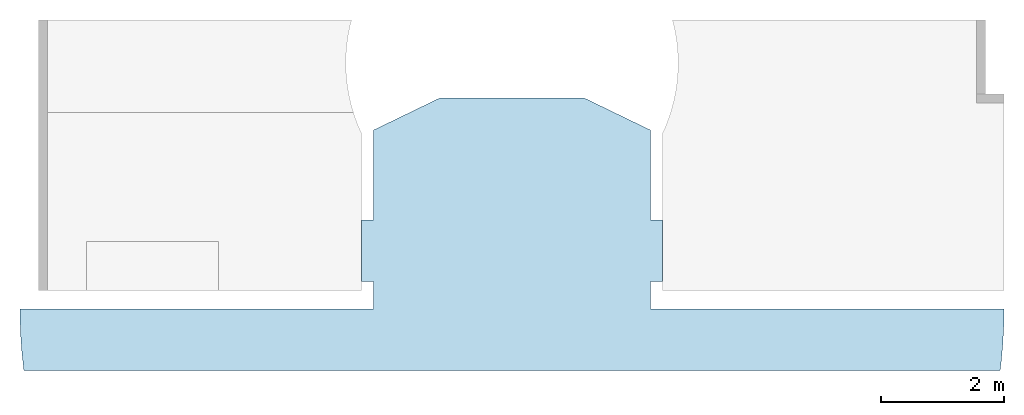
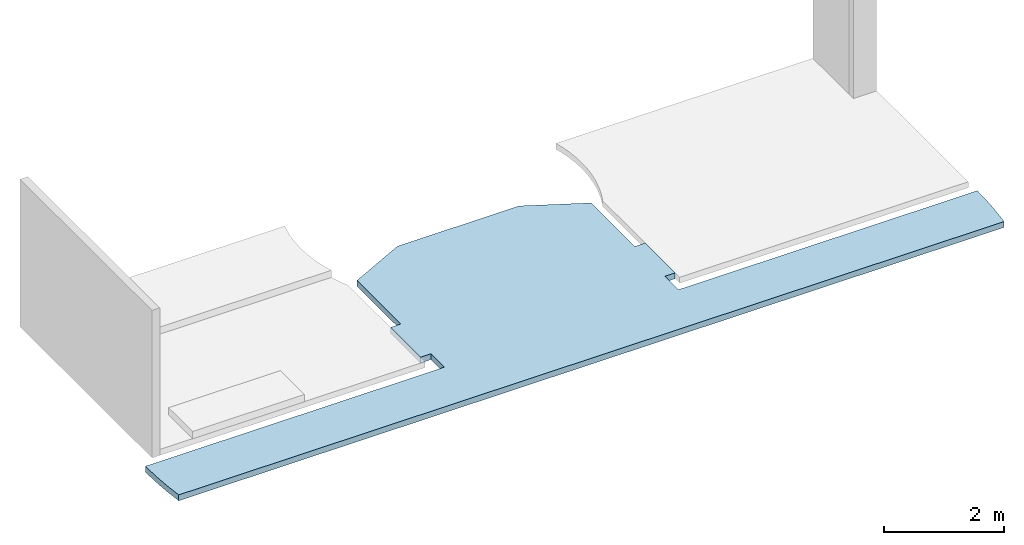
# One storey, part 2 of 3: 1 slab.
"""IFC4 building model written with IfcOpenShell, lengths in millimetres."""

from ifc_helpers import new_model, entity, si_unit, converted_unit, derived_unit, direction, frame, origin_with_axes, place, context, subcontext, project, spatial, polygons, material, constituent, constituent_set, type_object, element, save


model = new_model("IFC4")

# Units and contexts
model_context = context("Model", 3, precision=0.01, world=origin_with_axes(), true_north=direction((0.0, 1.0)))
body_context = subcontext(model_context, "Body", "Model", "MODEL_VIEW")
ifc_project = project(units=[si_unit("LENGTHUNIT", "METRE", prefix="MILLI"), si_unit("AREAUNIT", "SQUARE_METRE"), si_unit("VOLUMEUNIT", "CUBIC_METRE"), converted_unit("PLANEANGLEUNIT", "DEGREE", entity("IfcPlaneAngleMeasure", 0.0174532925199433), si_unit("PLANEANGLEUNIT", "RADIAN"), dimensions=[0, 0, 0, 0, 0, 0, 0]), converted_unit("TIMEUNIT", "Year", entity("IfcTimeMeasure", 31557600.0), si_unit("TIMEUNIT", "SECOND"), dimensions=[0, 0, 1, 0, 0, 0, 0]), si_unit("MASSUNIT", "GRAM", prefix="KILO"), si_unit("THERMODYNAMICTEMPERATUREUNIT", "DEGREE_CELSIUS"), si_unit("LUMINOUSINTENSITYUNIT", "LUMEN"), si_unit("ENERGYUNIT", "JOULE", prefix="MEGA"), derived_unit("THERMALCONDUCTANCEUNIT", [(si_unit("POWERUNIT", "WATT"), 1), (si_unit("LENGTHUNIT", "METRE"), -1), (si_unit("THERMODYNAMICTEMPERATUREUNIT", "KELVIN"), -1)]), derived_unit("SPECIFICHEATCAPACITYUNIT", [(si_unit("ENERGYUNIT", "JOULE"), 1), (si_unit("MASSUNIT", "GRAM", prefix="KILO"), -1), (si_unit("THERMODYNAMICTEMPERATUREUNIT", "KELVIN"), -1)]), derived_unit("MASSDENSITYUNIT", [(si_unit("MASSUNIT", "GRAM", prefix="KILO"), 1), (si_unit("VOLUMEUNIT", "CUBIC_METRE"), -1)])], contexts=[model_context])

# Site, building, storey
site_placement = place(None, origin_with_axes())
site = spatial("IfcSite", under=ifc_project, at=site_placement, Name="Exteriér", CompositionType="ELEMENT")
building_placement = place(site_placement, origin_with_axes())
building = spatial("IfcBuilding", under=site, at=building_placement, Name="Univerzitní lezecké centrum", CompositionType="ELEMENT")
storey_placement = place(building_placement, frame((0.0, 0.0, 6400.0), z_axis=(0.0, 0.0, 1.0), x_axis=(1.0, 0.0, 0.0)))
storey = spatial("IfcBuildingStorey", under=building, at=storey_placement, Name="3.NP", CompositionType="ELEMENT", Elevation=6400.0)

# Slab
ifc_material_1 = material(Name="Keramická dlažba 60x60")
ifc_constituent_1 = constituent(ifc_material_1, Name="Keramická dlažba 60x60")
ifc_material_2 = material(Name="Lepicí tmel na dlažbu a obklady")
ifc_constituent_2 = constituent(ifc_material_2, Name="Lepicí tmel na dlažbu a obklady")
ifc_material_3 = material(Name="Samonivelační stěrková hmota")
ifc_constituent_3 = constituent(ifc_material_3, Name="Samonivelační stěrková hmota")
ifc_material_4 = material(Name="Betonová mazanina")
ifc_constituent_4 = constituent(ifc_material_4, Name="Betonová mazanina")
ifc_material_5 = material(Name="PE fólie")
ifc_constituent_5 = constituent(ifc_material_5, Name="PE fólie")
ifc_material_6 = material(Name="Akustická izolace - EPS")
ifc_constituent_6 = constituent(ifc_material_6, Name="Akustická izolace - EPS")
ifc_constituent_set = constituent_set(constituents=[ifc_constituent_1, ifc_constituent_2, ifc_constituent_3, ifc_constituent_4, ifc_constituent_5, ifc_constituent_6], Name="!P03 Podlaha v patře - keramická dlažba 60x60")
slab_type = type_object("IfcSlabType", Name="!P03 Podlaha v patře - keramická dlažba 60x60 120", PredefinedType="FLOOR")
slab_placement = place(storey_placement, frame((-5550.148351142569, -299.9999999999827, 0.0), z_axis=(0.0, 0.0, 1.0), x_axis=(1.0, 0.0, 0.0)))
element("IfcSlab", 1, at=slab_placement, inside=storey, type_object=slab_type, material=ifc_constituent_set, Name="P03", PredefinedType="FLOOR", context=body_context, shape_type="Tessellation", body=[
    polygons([(9136.615207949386, 3433.426201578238, -9.999999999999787), (8303.896341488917, 3433.449993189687, -9.999999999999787), (8304.011930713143, 3433.449993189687, 0.0), (9136.615207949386, 3433.426201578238, 0.0), (9136.62706746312, 3433.449993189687, -9.999999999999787), (9170.051746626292, 3433.449993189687, -9.999999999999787), (10250.09951274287, 2910.480756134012, -9.999999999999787), (10250.09951274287, 1449.997452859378, -9.999999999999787), (10450.09951274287, 1449.997452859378, -9.999999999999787), (10450.09951274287, 449.9974528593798, -9.999999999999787), (10250.09951274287, 449.9974528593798, -9.999999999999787), (10250.09951274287, 300.0000000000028, -9.999999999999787), (10249.92954566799, 300.0000000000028, -9.999999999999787), (10249.92954566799, 0.0, -9.999999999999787), (10250.09951274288, 0.0, -9.999999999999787), (15999.99999999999, 0.0, -9.999999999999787), (15995.92125710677, -292.2489788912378, -9.999999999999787), (15980.51172042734, -575.8462430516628, -9.999999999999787), (15955.04680721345, -858.7179458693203, -9.999999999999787), (15937.30270512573, -999.6128086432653, -9.999999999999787), (10250.09951274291, -999.6127902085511, -9.999999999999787), (10249.92954566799, -999.6128088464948, -9.999999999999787), (62.69729255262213, -999.6127902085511, -9.999999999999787), (30.22709417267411, -709.1445868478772, -9.999999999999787), (10.07993160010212, -425.8444740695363, -9.999999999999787), (0.0, -142.0078008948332, -9.999999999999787), (0.0, 0.0, -9.999999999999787), (5749.932885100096, 0.0, -9.999999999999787), (5749.927875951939, 449.9999999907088, -9.999999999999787), (5549.831917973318, 449.9999999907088, -9.999999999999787), (5549.916745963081, 1450.014738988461, -9.999999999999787), (5749.916744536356, 1449.997773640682, -9.999999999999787), (5749.900487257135, 2910.480756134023, -9.999999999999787), (6829.948253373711, 3433.449993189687, -9.999999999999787), (6829.948253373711, 3433.449993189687, 0.0), (5749.900487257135, 2910.480756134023, 0.0), (5749.916744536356, 1449.997773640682, 0.0), (5549.916745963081, 1450.014738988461, 0.0), (5549.831917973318, 449.9999999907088, 0.0), (5749.927875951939, 449.9999999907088, 0.0), (5749.932885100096, 0.0, 0.0), (0.0, 0.0, 0.0), (0.0, -142.0078008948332, 0.0), (10.07993160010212, -425.8444740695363, 0.0), (30.22709417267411, -709.1445868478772, 0.0), (62.69729255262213, -999.6127902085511, 0.0), (10249.92954566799, -999.6128088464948, 0.0), (10250.09951274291, -999.6127902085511, 0.0), (15937.30270512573, -999.6128086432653, 0.0), (15955.04680721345, -858.7179458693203, 0.0), (15980.51172042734, -575.8462430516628, 0.0), (15995.92125710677, -292.2489788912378, 0.0), (15999.99999999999, 0.0, 0.0), (10250.09951274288, 0.0, 0.0), (10249.92954566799, 0.0, 0.0), (10249.92954566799, 300.0000000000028, 0.0), (10250.09951274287, 300.0000000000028, 0.0), (10250.09951274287, 449.9974528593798, 0.0), (10450.09951274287, 449.9974528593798, 0.0), (10450.09951274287, 1449.997452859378, 0.0), (10250.09951274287, 1449.997452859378, 0.0), (10250.09951274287, 2910.480756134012, 0.0), (9170.051746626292, 3433.449993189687, 0.0), (9136.62706746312, 3433.449993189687, 0.0)], [[[1, 2, 3, 4]], [[2, 1, 5, 6, 7, 8, 9, 10, 11, 12, 13, 14, 15, 16, 17, 18, 19, 20, 21, 22, 23, 24, 25, 26, 27, 28, 29, 30, 31, 32, 33, 34]], [[3, 2, 34, 35]], [[3, 35, 36, 37, 38, 39, 40, 41, 42, 43, 44, 45, 46, 47, 48, 49, 50, 51, 52, 53, 54, 55, 56, 57, 58, 59, 60, 61, 62, 63, 64, 4]], [[1, 4, 64, 5]], [[6, 5, 64, 63]], [[7, 6, 63, 62]], [[8, 7, 62, 61]], [[9, 8, 61, 60]], [[10, 9, 60, 59]], [[11, 10, 59, 58]], [[11, 58, 57, 12]], [[56, 13, 12, 57]], [[14, 13, 56, 55]], [[15, 14, 55, 54]], [[53, 16, 15, 54]], [[17, 16, 53, 52]], [[18, 17, 52, 51]], [[19, 18, 51, 50]], [[20, 19, 50, 49]], [[21, 20, 49, 48]], [[22, 21, 48, 47]], [[23, 22, 47, 46]], [[24, 23, 46, 45]], [[25, 24, 45, 44]], [[26, 25, 44, 43]], [[27, 26, 43, 42]], [[28, 27, 42, 41]], [[29, 28, 41, 40]], [[30, 29, 40, 39]], [[31, 30, 39, 38]], [[32, 31, 38, 37]], [[33, 32, 37, 36]], [[34, 33, 36, 35]]], closed=True),
    polygons([(9136.615207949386, 3433.426201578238, -12.9999999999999), (8303.861664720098, 3433.449993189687, -12.9999999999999), (8303.896341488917, 3433.449993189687, -9.999999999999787), (9136.615207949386, 3433.426201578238, -9.999999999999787), (9136.62706746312, 3433.449993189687, -12.9999999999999), (9170.051746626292, 3433.449993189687, -12.9999999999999), (10250.09951274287, 2910.480756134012, -12.9999999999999), (10250.09951274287, 1449.997452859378, -12.9999999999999), (10450.09951274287, 1449.997452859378, -12.9999999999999), (10450.09951274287, 449.9974528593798, -12.9999999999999), (10250.09951274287, 449.9974528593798, -12.9999999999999), (10250.09951274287, 300.0000000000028, -12.9999999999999), (10249.92954566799, 300.0000000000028, -12.9999999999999), (10249.92954566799, 0.0, -12.9999999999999), (10250.09951274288, 0.0, -12.9999999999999), (15999.99999999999, 0.0, -12.9999999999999), (15995.92125710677, -292.2489788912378, -12.9999999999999), (15980.51172042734, -575.8462430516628, -12.9999999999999), (15955.04680721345, -858.7179458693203, -12.9999999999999), (15937.30270512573, -999.6128086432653, -12.9999999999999), (10250.09951274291, -999.6127902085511, -12.9999999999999), (10249.92954566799, -999.6128088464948, -12.9999999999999), (62.69729255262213, -999.6127902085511, -12.9999999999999), (30.22709417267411, -709.1445868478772, -12.9999999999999), (10.07993160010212, -425.8444740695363, -12.9999999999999), (0.0, -142.0078008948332, -12.9999999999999), (0.0, 0.0, -12.9999999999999), (5749.932885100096, 0.0, -12.9999999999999), (5749.927875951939, 449.9999999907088, -12.9999999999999), (5549.831917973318, 449.9999999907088, -12.9999999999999), (5549.916745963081, 1450.014738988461, -12.9999999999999), (5749.916744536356, 1449.997773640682, -12.9999999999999), (5749.900487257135, 2910.480756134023, -12.9999999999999), (6829.948253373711, 3433.449993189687, -12.9999999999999), (6829.948253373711, 3433.449993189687, -9.999999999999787), (5749.900487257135, 2910.480756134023, -9.999999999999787), (5749.916744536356, 1449.997773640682, -9.999999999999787), (5549.916745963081, 1450.014738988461, -9.999999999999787), (5549.831917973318, 449.9999999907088, -9.999999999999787), (5749.927875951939, 449.9999999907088, -9.999999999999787), (5749.932885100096, 0.0, -9.999999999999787), (0.0, 0.0, -9.999999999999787), (0.0, -142.0078008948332, -9.999999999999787), (10.07993160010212, -425.8444740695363, -9.999999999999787), (30.22709417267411, -709.1445868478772, -9.999999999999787), (62.69729255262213, -999.6127902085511, -9.999999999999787), (10249.92954566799, -999.6128088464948, -9.999999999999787), (10250.09951274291, -999.6127902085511, -9.999999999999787), (15937.30270512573, -999.6128086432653, -9.999999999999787), (15955.04680721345, -858.7179458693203, -9.999999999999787), (15980.51172042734, -575.8462430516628, -9.999999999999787), (15995.92125710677, -292.2489788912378, -9.999999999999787), (15999.99999999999, 0.0, -9.999999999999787), (10250.09951274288, 0.0, -9.999999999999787), (10249.92954566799, 0.0, -9.999999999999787), (10249.92954566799, 300.0000000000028, -9.999999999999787), (10250.09951274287, 300.0000000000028, -9.999999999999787), (10250.09951274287, 449.9974528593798, -9.999999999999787), (10450.09951274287, 449.9974528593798, -9.999999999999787), (10450.09951274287, 1449.997452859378, -9.999999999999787), (10250.09951274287, 1449.997452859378, -9.999999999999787), (10250.09951274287, 2910.480756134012, -9.999999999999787), (9170.051746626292, 3433.449993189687, -9.999999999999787), (9136.62706746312, 3433.449993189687, -9.999999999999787)], [[[1, 2, 3, 4]], [[2, 1, 5, 6, 7, 8, 9, 10, 11, 12, 13, 14, 15, 16, 17, 18, 19, 20, 21, 22, 23, 24, 25, 26, 27, 28, 29, 30, 31, 32, 33, 34]], [[3, 2, 34, 35]], [[3, 35, 36, 37, 38, 39, 40, 41, 42, 43, 44, 45, 46, 47, 48, 49, 50, 51, 52, 53, 54, 55, 56, 57, 58, 59, 60, 61, 62, 63, 64, 4]], [[1, 4, 64, 5]], [[6, 5, 64, 63]], [[7, 6, 63, 62]], [[8, 7, 62, 61]], [[9, 8, 61, 60]], [[10, 9, 60, 59]], [[11, 10, 59, 58]], [[11, 58, 57, 12]], [[56, 13, 12, 57]], [[14, 13, 56, 55]], [[15, 14, 55, 54]], [[53, 16, 15, 54]], [[17, 16, 53, 52]], [[18, 17, 52, 51]], [[19, 18, 51, 50]], [[20, 19, 50, 49]], [[21, 20, 49, 48]], [[22, 21, 48, 47]], [[23, 22, 47, 46]], [[24, 23, 46, 45]], [[25, 24, 45, 44]], [[26, 25, 44, 43]], [[27, 26, 43, 42]], [[28, 27, 42, 41]], [[29, 28, 41, 40]], [[30, 29, 40, 39]], [[31, 30, 39, 38]], [[32, 31, 38, 37]], [[33, 32, 37, 36]], [[34, 33, 36, 35]]], closed=True),
    polygons([(9136.615207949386, 3433.426201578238, -16.00000000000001), (8303.826987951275, 3433.449993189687, -16.00000000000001), (8303.861664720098, 3433.449993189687, -12.9999999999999), (9136.615207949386, 3433.426201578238, -12.9999999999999), (9136.62706746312, 3433.449993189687, -16.00000000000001), (9170.051746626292, 3433.449993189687, -16.00000000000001), (10250.09951274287, 2910.480756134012, -16.00000000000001), (10250.09951274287, 1449.997452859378, -16.00000000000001), (10450.09951274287, 1449.997452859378, -16.00000000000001), (10450.09951274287, 449.9974528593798, -16.00000000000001), (10250.09951274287, 449.9974528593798, -16.00000000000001), (10250.09951274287, 300.0000000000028, -16.00000000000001), (10249.92954566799, 300.0000000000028, -16.00000000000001), (10249.92954566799, 0.0, -16.00000000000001), (10250.09951274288, 0.0, -16.00000000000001), (15999.99999999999, 0.0, -16.00000000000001), (15995.92125710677, -292.2489788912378, -16.00000000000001), (15980.51172042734, -575.8462430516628, -16.00000000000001), (15955.04680721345, -858.7179458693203, -16.00000000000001), (15937.30270512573, -999.6128086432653, -16.00000000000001), (10250.09951274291, -999.6127902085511, -16.00000000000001), (10249.92954566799, -999.6128088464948, -16.00000000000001), (62.69729255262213, -999.6127902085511, -16.00000000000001), (30.22709417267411, -709.1445868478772, -16.00000000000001), (10.07993160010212, -425.8444740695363, -16.00000000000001), (0.0, -142.0078008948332, -16.00000000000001), (0.0, 0.0, -16.00000000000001), (5749.932885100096, 0.0, -16.00000000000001), (5749.927875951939, 449.9999999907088, -16.00000000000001), (5549.831917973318, 449.9999999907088, -16.00000000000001), (5549.916745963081, 1450.014738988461, -16.00000000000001), (5749.916744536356, 1449.997773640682, -16.00000000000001), (5749.900487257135, 2910.480756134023, -16.00000000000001), (6829.948253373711, 3433.449993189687, -16.00000000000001), (6829.948253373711, 3433.449993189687, -12.9999999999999), (5749.900487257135, 2910.480756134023, -12.9999999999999), (5749.916744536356, 1449.997773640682, -12.9999999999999), (5549.916745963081, 1450.014738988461, -12.9999999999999), (5549.831917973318, 449.9999999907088, -12.9999999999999), (5749.927875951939, 449.9999999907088, -12.9999999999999), (5749.932885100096, 0.0, -12.9999999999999), (0.0, 0.0, -12.9999999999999), (0.0, -142.0078008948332, -12.9999999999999), (10.07993160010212, -425.8444740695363, -12.9999999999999), (30.22709417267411, -709.1445868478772, -12.9999999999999), (62.69729255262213, -999.6127902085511, -12.9999999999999), (10249.92954566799, -999.6128088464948, -12.9999999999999), (10250.09951274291, -999.6127902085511, -12.9999999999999), (15937.30270512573, -999.6128086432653, -12.9999999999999), (15955.04680721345, -858.7179458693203, -12.9999999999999), (15980.51172042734, -575.8462430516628, -12.9999999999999), (15995.92125710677, -292.2489788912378, -12.9999999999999), (15999.99999999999, 0.0, -12.9999999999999), (10250.09951274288, 0.0, -12.9999999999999), (10249.92954566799, 0.0, -12.9999999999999), (10249.92954566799, 300.0000000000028, -12.9999999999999), (10250.09951274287, 300.0000000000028, -12.9999999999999), (10250.09951274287, 449.9974528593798, -12.9999999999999), (10450.09951274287, 449.9974528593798, -12.9999999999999), (10450.09951274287, 1449.997452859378, -12.9999999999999), (10250.09951274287, 1449.997452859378, -12.9999999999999), (10250.09951274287, 2910.480756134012, -12.9999999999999), (9170.051746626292, 3433.449993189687, -12.9999999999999), (9136.62706746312, 3433.449993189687, -12.9999999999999)], [[[1, 2, 3, 4]], [[2, 1, 5, 6, 7, 8, 9, 10, 11, 12, 13, 14, 15, 16, 17, 18, 19, 20, 21, 22, 23, 24, 25, 26, 27, 28, 29, 30, 31, 32, 33, 34]], [[3, 2, 34, 35]], [[3, 35, 36, 37, 38, 39, 40, 41, 42, 43, 44, 45, 46, 47, 48, 49, 50, 51, 52, 53, 54, 55, 56, 57, 58, 59, 60, 61, 62, 63, 64, 4]], [[1, 4, 64, 5]], [[6, 5, 64, 63]], [[7, 6, 63, 62]], [[8, 7, 62, 61]], [[9, 8, 61, 60]], [[10, 9, 60, 59]], [[11, 10, 59, 58]], [[11, 58, 57, 12]], [[56, 13, 12, 57]], [[14, 13, 56, 55]], [[15, 14, 55, 54]], [[53, 16, 15, 54]], [[17, 16, 53, 52]], [[18, 17, 52, 51]], [[19, 18, 51, 50]], [[20, 19, 50, 49]], [[21, 20, 49, 48]], [[22, 21, 48, 47]], [[23, 22, 47, 46]], [[24, 23, 46, 45]], [[25, 24, 45, 44]], [[26, 25, 44, 43]], [[27, 26, 43, 42]], [[28, 27, 42, 41]], [[29, 28, 41, 40]], [[30, 29, 40, 39]], [[31, 30, 39, 38]], [[32, 31, 38, 37]], [[33, 32, 37, 36]], [[34, 33, 36, 35]]], closed=True),
    polygons([(9136.615207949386, 3433.426201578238, -78.99999999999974), (8303.09877583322, 3433.449993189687, -78.99999999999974), (8303.826987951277, 3433.449993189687, -16.00000000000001), (9136.615207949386, 3433.426201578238, -16.00000000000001), (9136.62706746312, 3433.449993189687, -78.99999999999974), (9170.051746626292, 3433.449993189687, -78.99999999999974), (10250.09951274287, 2910.480756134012, -78.99999999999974), (10250.09951274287, 1449.997452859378, -78.99999999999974), (10450.09951274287, 1449.997452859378, -78.99999999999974), (10450.09951274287, 449.9974528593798, -78.99999999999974), (10250.09951274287, 449.9974528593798, -78.99999999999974), (10250.09951274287, 300.0000000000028, -78.99999999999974), (10249.92954566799, 300.0000000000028, -78.99999999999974), (10249.92954566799, 0.0, -78.99999999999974), (10250.09951274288, 0.0, -78.99999999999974), (15999.99999999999, 0.0, -78.99999999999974), (15995.92125710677, -292.2489788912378, -78.99999999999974), (15980.51172042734, -575.8462430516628, -78.99999999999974), (15955.04680721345, -858.7179458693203, -78.99999999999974), (15937.30270512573, -999.6128086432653, -78.99999999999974), (10250.09951274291, -999.6127902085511, -78.99999999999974), (10249.92954566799, -999.6128088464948, -78.99999999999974), (62.69729255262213, -999.6127902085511, -78.99999999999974), (30.22709417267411, -709.1445868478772, -78.99999999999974), (10.07993160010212, -425.8444740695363, -78.99999999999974), (0.0, -142.0078008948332, -78.99999999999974), (0.0, 0.0, -78.99999999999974), (5749.932885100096, 0.0, -78.99999999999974), (5749.927875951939, 449.9999999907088, -78.99999999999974), (5549.831917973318, 449.9999999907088, -78.99999999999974), (5549.916745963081, 1450.014738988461, -78.99999999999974), (5749.916744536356, 1449.997773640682, -78.99999999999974), (5749.900487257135, 2910.480756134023, -78.99999999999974), (6829.948253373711, 3433.449993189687, -78.99999999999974), (6829.948253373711, 3433.449993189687, -16.00000000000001), (5749.900487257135, 2910.480756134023, -16.00000000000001), (5749.916744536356, 1449.997773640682, -16.00000000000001), (5549.916745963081, 1450.014738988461, -16.00000000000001), (5549.831917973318, 449.9999999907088, -16.00000000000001), (5749.927875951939, 449.9999999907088, -16.00000000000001), (5749.932885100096, 0.0, -16.00000000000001), (0.0, 0.0, -16.00000000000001), (0.0, -142.0078008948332, -16.00000000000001), (10.07993160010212, -425.8444740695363, -16.00000000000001), (30.22709417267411, -709.1445868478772, -16.00000000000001), (62.69729255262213, -999.6127902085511, -16.00000000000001), (10249.92954566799, -999.6128088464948, -16.00000000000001), (10250.09951274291, -999.6127902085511, -16.00000000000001), (15937.30270512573, -999.6128086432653, -16.00000000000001), (15955.04680721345, -858.7179458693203, -16.00000000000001), (15980.51172042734, -575.8462430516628, -16.00000000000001), (15995.92125710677, -292.2489788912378, -16.00000000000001), (15999.99999999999, 0.0, -16.00000000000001), (10250.09951274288, 0.0, -16.00000000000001), (10249.92954566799, 0.0, -16.00000000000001), (10249.92954566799, 300.0000000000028, -16.00000000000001), (10250.09951274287, 300.0000000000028, -16.00000000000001), (10250.09951274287, 449.9974528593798, -16.00000000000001), (10450.09951274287, 449.9974528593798, -16.00000000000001), (10450.09951274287, 1449.997452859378, -16.00000000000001), (10250.09951274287, 1449.997452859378, -16.00000000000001), (10250.09951274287, 2910.480756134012, -16.00000000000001), (9170.051746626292, 3433.449993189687, -16.00000000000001), (9136.62706746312, 3433.449993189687, -16.00000000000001)], [[[1, 2, 3, 4]], [[2, 1, 5, 6, 7, 8, 9, 10, 11, 12, 13, 14, 15, 16, 17, 18, 19, 20, 21, 22, 23, 24, 25, 26, 27, 28, 29, 30, 31, 32, 33, 34]], [[3, 2, 34, 35]], [[3, 35, 36, 37, 38, 39, 40, 41, 42, 43, 44, 45, 46, 47, 48, 49, 50, 51, 52, 53, 54, 55, 56, 57, 58, 59, 60, 61, 62, 63, 64, 4]], [[1, 4, 64, 5]], [[6, 5, 64, 63]], [[7, 6, 63, 62]], [[8, 7, 62, 61]], [[9, 8, 61, 60]], [[10, 9, 60, 59]], [[11, 10, 59, 58]], [[11, 58, 57, 12]], [[56, 13, 12, 57]], [[14, 13, 56, 55]], [[15, 14, 55, 54]], [[53, 16, 15, 54]], [[17, 16, 53, 52]], [[18, 17, 52, 51]], [[19, 18, 51, 50]], [[20, 19, 50, 49]], [[21, 20, 49, 48]], [[22, 21, 48, 47]], [[23, 22, 47, 46]], [[24, 23, 46, 45]], [[25, 24, 45, 44]], [[26, 25, 44, 43]], [[27, 26, 43, 42]], [[28, 27, 42, 41]], [[29, 28, 41, 40]], [[30, 29, 40, 39]], [[31, 30, 39, 38]], [[32, 31, 38, 37]], [[33, 32, 37, 36]], [[34, 33, 36, 35]]], closed=True),
    polygons([(9136.615207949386, 3433.426201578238, -79.49999999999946), (8303.092996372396, 3433.449993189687, -79.49999999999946), (8303.09877583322, 3433.449993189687, -78.99999999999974), (9136.615207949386, 3433.426201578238, -78.99999999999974), (9136.62706746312, 3433.449993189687, -79.49999999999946), (9170.051746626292, 3433.449993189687, -79.49999999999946), (10250.09951274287, 2910.480756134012, -79.49999999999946), (10250.09951274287, 1449.997452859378, -79.49999999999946), (10450.09951274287, 1449.997452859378, -79.49999999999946), (10450.09951274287, 449.9974528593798, -79.49999999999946), (10250.09951274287, 449.9974528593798, -79.49999999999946), (10250.09951274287, 300.0000000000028, -79.49999999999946), (10249.92954566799, 300.0000000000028, -79.49999999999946), (10249.92954566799, 0.0, -79.49999999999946), (10250.09951274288, 0.0, -79.49999999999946), (15999.99999999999, 0.0, -79.49999999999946), (15995.92125710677, -292.2489788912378, -79.49999999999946), (15980.51172042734, -575.8462430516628, -79.49999999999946), (15955.04680721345, -858.7179458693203, -79.49999999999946), (15937.30270512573, -999.6128086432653, -79.49999999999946), (10250.09951274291, -999.6127902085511, -79.49999999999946), (10249.92954566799, -999.6128088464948, -79.49999999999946), (62.69729255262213, -999.6127902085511, -79.49999999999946), (30.22709417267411, -709.1445868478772, -79.49999999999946), (10.07993160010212, -425.8444740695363, -79.49999999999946), (0.0, -142.0078008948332, -79.49999999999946), (0.0, 0.0, -79.49999999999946), (5749.932885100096, 0.0, -79.49999999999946), (5749.927875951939, 449.9999999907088, -79.49999999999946), (5549.831917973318, 449.9999999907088, -79.49999999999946), (5549.916745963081, 1450.014738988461, -79.49999999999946), (5749.916744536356, 1449.997773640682, -79.49999999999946), (5749.900487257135, 2910.480756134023, -79.49999999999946), (6829.948253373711, 3433.449993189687, -79.49999999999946), (6829.948253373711, 3433.449993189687, -78.99999999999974), (5749.900487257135, 2910.480756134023, -78.99999999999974), (5749.916744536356, 1449.997773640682, -78.99999999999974), (5549.916745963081, 1450.014738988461, -78.99999999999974), (5549.831917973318, 449.9999999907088, -78.99999999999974), (5749.927875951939, 449.9999999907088, -78.99999999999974), (5749.932885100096, 0.0, -78.99999999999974), (0.0, 0.0, -78.99999999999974), (0.0, -142.0078008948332, -78.99999999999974), (10.07993160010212, -425.8444740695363, -78.99999999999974), (30.22709417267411, -709.1445868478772, -78.99999999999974), (62.69729255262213, -999.6127902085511, -78.99999999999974), (10249.92954566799, -999.6128088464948, -78.99999999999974), (10250.09951274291, -999.6127902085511, -78.99999999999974), (15937.30270512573, -999.6128086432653, -78.99999999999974), (15955.04680721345, -858.7179458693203, -78.99999999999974), (15980.51172042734, -575.8462430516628, -78.99999999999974), (15995.92125710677, -292.2489788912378, -78.99999999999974), (15999.99999999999, 0.0, -78.99999999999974), (10250.09951274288, 0.0, -78.99999999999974), (10249.92954566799, 0.0, -78.99999999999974), (10249.92954566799, 300.0000000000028, -78.99999999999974), (10250.09951274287, 300.0000000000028, -78.99999999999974), (10250.09951274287, 449.9974528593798, -78.99999999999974), (10450.09951274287, 449.9974528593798, -78.99999999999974), (10450.09951274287, 1449.997452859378, -78.99999999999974), (10250.09951274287, 1449.997452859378, -78.99999999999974), (10250.09951274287, 2910.480756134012, -78.99999999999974), (9170.051746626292, 3433.449993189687, -78.99999999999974), (9136.62706746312, 3433.449993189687, -78.99999999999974)], [[[1, 2, 3, 4]], [[2, 1, 5, 6, 7, 8, 9, 10, 11, 12, 13, 14, 15, 16, 17, 18, 19, 20, 21, 22, 23, 24, 25, 26, 27, 28, 29, 30, 31, 32, 33, 34]], [[3, 2, 34, 35]], [[3, 35, 36, 37, 38, 39, 40, 41, 42, 43, 44, 45, 46, 47, 48, 49, 50, 51, 52, 53, 54, 55, 56, 57, 58, 59, 60, 61, 62, 63, 64, 4]], [[1, 4, 64, 5]], [[6, 5, 64, 63]], [[7, 6, 63, 62]], [[8, 7, 62, 61]], [[9, 8, 61, 60]], [[10, 9, 60, 59]], [[11, 10, 59, 58]], [[11, 58, 57, 12]], [[56, 13, 12, 57]], [[14, 13, 56, 55]], [[15, 14, 55, 54]], [[53, 16, 15, 54]], [[17, 16, 53, 52]], [[18, 17, 52, 51]], [[19, 18, 51, 50]], [[20, 19, 50, 49]], [[21, 20, 49, 48]], [[22, 21, 48, 47]], [[23, 22, 47, 46]], [[24, 23, 46, 45]], [[25, 24, 45, 44]], [[26, 25, 44, 43]], [[27, 26, 43, 42]], [[28, 27, 42, 41]], [[29, 28, 41, 40]], [[30, 29, 40, 39]], [[31, 30, 39, 38]], [[32, 31, 38, 37]], [[33, 32, 37, 36]], [[34, 33, 36, 35]]], closed=True),
    polygons([(5749.932885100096, 0.0, -119.5000000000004), (0.0, 0.0, -119.5000000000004), (0.0, 0.0, -79.50000000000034), (5749.932885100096, 0.0, -79.50000000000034), (10.07993160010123, -425.8444740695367, -119.5000000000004), (0.0, -142.0078008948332, -119.5000000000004), (5749.929545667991, 300.0000000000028, -119.4999999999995), (5749.927875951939, 449.9999999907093, -119.5000000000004), (5549.927875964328, 449.9988868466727, -119.5000000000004), (5549.831917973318, 449.9999999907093, -119.5000000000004), (5549.916744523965, 1449.997773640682, -119.4999999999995), (5726.716136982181, 1449.999741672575, -119.5000000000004), (5749.916744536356, 1449.997773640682, -119.5000000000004), (5749.900487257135, 2910.480756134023, -119.5000000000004), (6829.948253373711, 3433.449993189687, -119.5000000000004), (6976.509397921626, 3433.449231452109, -119.4999999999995), (9136.615207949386, 3433.425572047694, -119.4999999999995), (9136.62706746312, 3433.449993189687, -119.4999999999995), (9170.051746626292, 3433.449993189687, -119.5000000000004), (10250.09951274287, 2910.480756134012, -119.5000000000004), (10250.09951274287, 1449.997452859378, -119.5000000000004), (10450.09951274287, 1449.997452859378, -119.5000000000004), (10450.09951274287, 449.9974528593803, -119.5000000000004), (10250.09951274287, 449.9974528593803, -119.5000000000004), (10250.09951274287, 300.0000000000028, -119.5000000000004), (10249.92954566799, 300.0000000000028, -119.4999999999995), (10249.92954566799, 0.0, -119.4999999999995), (10250.09951274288, 0.0, -119.5000000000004), (15999.99999999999, 0.0, -119.5000000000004), (15995.92125710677, -292.2489788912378, -119.5000000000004), (15980.51172042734, -575.8462430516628, -119.5000000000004), (15955.04680721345, -858.7179458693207, -119.5000000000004), (15937.30270512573, -999.6128086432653, -119.5000000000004), (10250.09951274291, -999.6127902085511, -119.5000000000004), (10249.92954566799, -999.6128088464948, -119.5000000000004), (5749.944012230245, -999.6127902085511, -119.5000000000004), (62.69729255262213, -999.6127902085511, -119.5000000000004), (30.22709417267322, -709.1445868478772, -119.5000000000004), (0.0, -142.0078008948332, -79.50000000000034), (10.07993160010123, -425.8444740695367, -79.50000000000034), (30.22709417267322, -709.1445868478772, -79.50000000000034), (62.69729255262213, -999.6127902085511, -79.50000000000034), (5749.944012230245, -999.6127902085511, -79.50000000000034), (10249.92954566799, -999.6128088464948, -79.50000000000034), (10250.09951274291, -999.6127902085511, -79.50000000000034), (15937.30270512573, -999.6128086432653, -79.50000000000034), (15955.04680721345, -858.7179458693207, -79.50000000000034), (15980.51172042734, -575.8462430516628, -79.50000000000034), (15995.92125710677, -292.2489788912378, -79.50000000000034), (15999.99999999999, 0.0, -79.50000000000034), (10250.09951274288, 0.0, -79.50000000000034), (10249.92954566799, 0.0, -79.50000000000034), (10249.92954566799, 300.0000000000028, -79.50000000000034), (10250.09951274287, 300.0000000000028, -79.50000000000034), (10250.09951274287, 449.9974528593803, -79.50000000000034), (10450.09951274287, 449.9974528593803, -79.50000000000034), (10450.09951274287, 1449.997452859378, -79.50000000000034), (10250.09951274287, 1449.997452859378, -79.50000000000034), (10250.09951274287, 2910.480756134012, -79.50000000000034), (9170.051746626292, 3433.449993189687, -79.50000000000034), (9136.62706746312, 3433.449993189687, -79.50000000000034), (9136.615207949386, 3433.426201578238, -79.50000000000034), (8283.392629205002, 3433.449993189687, -79.50000000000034), (6829.948253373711, 3433.449993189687, -79.50000000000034), (5749.900487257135, 2910.480756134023, -79.50000000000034), (5749.916744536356, 1449.997773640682, -79.50000000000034), (5549.916744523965, 1449.997773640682, -79.50000000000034), (5549.831917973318, 449.9999999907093, -79.50000000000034), (5549.927875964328, 449.9988868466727, -79.50000000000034), (5749.927875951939, 449.9999999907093, -79.50000000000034), (5749.929545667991, 300.0000000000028, -79.50000000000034), (8304.045621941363, 3433.449993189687, -100.0000000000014), (6976.509397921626, 3433.449119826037, -99.99999999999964), (9024.881535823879, 3433.42939449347, -100.0000000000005), (9136.615207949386, 3433.426201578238, -100.0000000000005)], [[[1, 2, 3, 4]], [[5, 6, 2, 1, 7, 8, 9, 10, 11, 12, 13, 14, 15, 16, 17, 18, 19, 20, 21, 22, 23, 24, 25, 26, 27, 28, 29, 30, 31, 32, 33, 34, 35, 36, 37, 38]], [[6, 39, 3, 2]], [[39, 40, 41, 42, 43, 44, 45, 46, 47, 48, 49, 50, 51, 52, 53, 54, 55, 56, 57, 58, 59, 60, 61, 62, 63, 64, 65, 66, 67, 68, 69, 70, 71, 4, 3]], [[7, 1, 4, 71]], [[6, 5, 40, 39]], [[8, 7, 71, 70]], [[9, 8, 70, 69]], [[10, 9, 69, 68]], [[11, 10, 68, 67]], [[66, 13, 12, 11, 67]], [[13, 66, 65, 14]], [[14, 65, 64, 15]], [[16, 15, 64, 63, 72, 73]], [[17, 16, 73, 74, 75]], [[18, 17, 75, 62, 61]], [[19, 18, 61, 60]], [[59, 20, 19, 60]], [[58, 21, 20, 59]], [[21, 58, 57, 22]], [[23, 22, 57, 56]], [[55, 24, 23, 56]], [[24, 55, 54, 25]], [[25, 54, 53, 26]], [[27, 26, 53, 52]], [[51, 28, 27, 52]], [[28, 51, 50, 29]], [[49, 30, 29, 50]], [[31, 30, 49, 48]], [[32, 31, 48, 47]], [[33, 32, 47, 46]], [[37, 36, 35, 34, 33, 46, 45, 44, 43, 42]], [[38, 37, 42, 41]], [[5, 38, 41, 40]], [[75, 74, 72, 63, 62]], [[73, 72, 74]]], closed=True),
])

save(model, "model.ifc")
